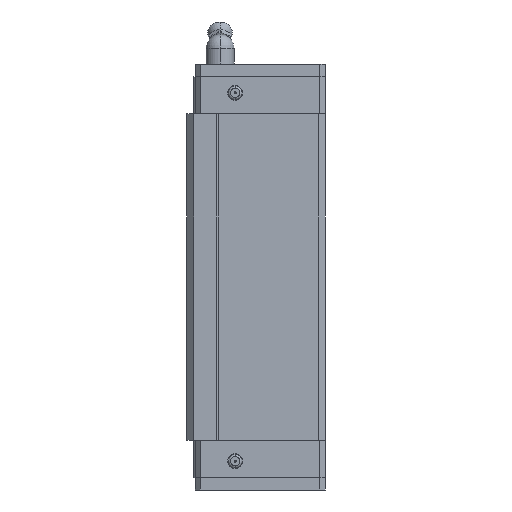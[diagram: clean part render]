
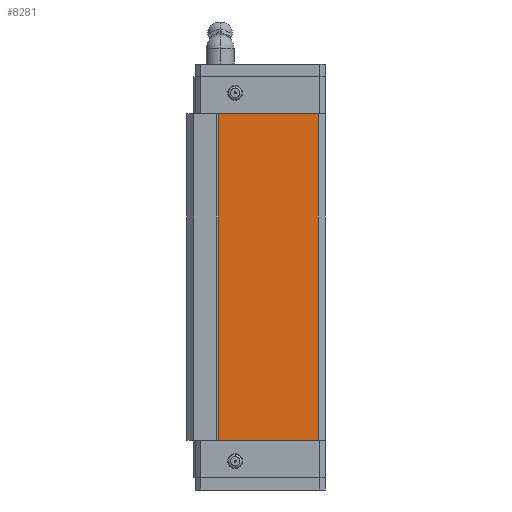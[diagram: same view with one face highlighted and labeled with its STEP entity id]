
A CAD part, left-side view. The second image highlights one B-rep face of the part: STEP entity #8281.
In plain terms, the highlighted planar face has unit normal (-1, 0, 0).
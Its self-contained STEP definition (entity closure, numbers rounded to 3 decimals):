
#340 = DIRECTION ( 'NONE',  ( 1., 0., 0. ) ) ;
#532 = EDGE_CURVE ( 'NONE', #929, #9983, #10840, .T. ) ;
#596 = EDGE_CURVE ( 'NONE', #9983, #1919, #4752, .T. ) ;
#929 = VERTEX_POINT ( 'NONE', #9997 ) ;
#1071 = ORIENTED_EDGE ( 'NONE', *, *, #7717, .T. ) ;
#1346 = VECTOR ( 'NONE', #13749, 1000. ) ;
#1919 = VERTEX_POINT ( 'NONE', #6418 ) ;
#1920 = CARTESIAN_POINT ( 'NONE',  ( -29.537, 30.537, -46.5 ) ) ;
#3054 = VECTOR ( 'NONE', #4002, 1000. ) ;
#4002 = DIRECTION ( 'NONE',  ( 0., 0., -1. ) ) ;
#4413 = CARTESIAN_POINT ( 'NONE',  ( -29.537, 1.975, 46.5 ) ) ;
#4617 = PLANE ( 'NONE',  #13497 ) ;
#4752 = LINE ( 'NONE', #4413, #10163 ) ;
#5634 = DIRECTION ( 'NONE',  ( 0., -1., 0. ) ) ;
#5911 = LINE ( 'NONE', #8315, #3054 ) ;
#6220 = CARTESIAN_POINT ( 'NONE',  ( -29.537, 30.537, -46.5 ) ) ;
#6285 = ORIENTED_EDGE ( 'NONE', *, *, #13943, .T. ) ;
#6418 = CARTESIAN_POINT ( 'NONE',  ( -29.537, 1.975, -46.5 ) ) ;
#6791 = CARTESIAN_POINT ( 'NONE',  ( -29.537, 30.537, 46.5 ) ) ;
#7717 = EDGE_CURVE ( 'NONE', #929, #9585, #5911, .T. ) ;
#7881 = DIRECTION ( 'NONE',  ( 0., 1., 0. ) ) ;
#7970 = VECTOR ( 'NONE', #5634, 1000. ) ;
#8004 = CARTESIAN_POINT ( 'NONE',  ( -29.537, 30.537, 46.5 ) ) ;
#8105 = FACE_OUTER_BOUND ( 'NONE', #8913, .T. ) ;
#8189 = ORIENTED_EDGE ( 'NONE', *, *, #596, .F. ) ;
#8281 = ADVANCED_FACE ( 'NONE', ( #8105 ), #4617, .F. ) ;
#8315 = CARTESIAN_POINT ( 'NONE',  ( -29.537, 30.537, 46.5 ) ) ;
#8913 = EDGE_LOOP ( 'NONE', ( #1071, #6285, #8189, #11364 ) ) ;
#9006 = DIRECTION ( 'NONE',  ( 0., 0., -1. ) ) ;
#9585 = VERTEX_POINT ( 'NONE', #1920 ) ;
#9602 = LINE ( 'NONE', #6220, #1346 ) ;
#9983 = VERTEX_POINT ( 'NONE', #11815 ) ;
#9997 = CARTESIAN_POINT ( 'NONE',  ( -29.537, 30.537, 46.5 ) ) ;
#10163 = VECTOR ( 'NONE', #9006, 1000. ) ;
#10840 = LINE ( 'NONE', #8004, #7970 ) ;
#11364 = ORIENTED_EDGE ( 'NONE', *, *, #532, .F. ) ;
#11815 = CARTESIAN_POINT ( 'NONE',  ( -29.537, 1.975, 46.5 ) ) ;
#13497 = AXIS2_PLACEMENT_3D ( 'NONE', #6791, #340, #7881 ) ;
#13749 = DIRECTION ( 'NONE',  ( 0., -1., 0. ) ) ;
#13943 = EDGE_CURVE ( 'NONE', #9585, #1919, #9602, .T. ) ;
